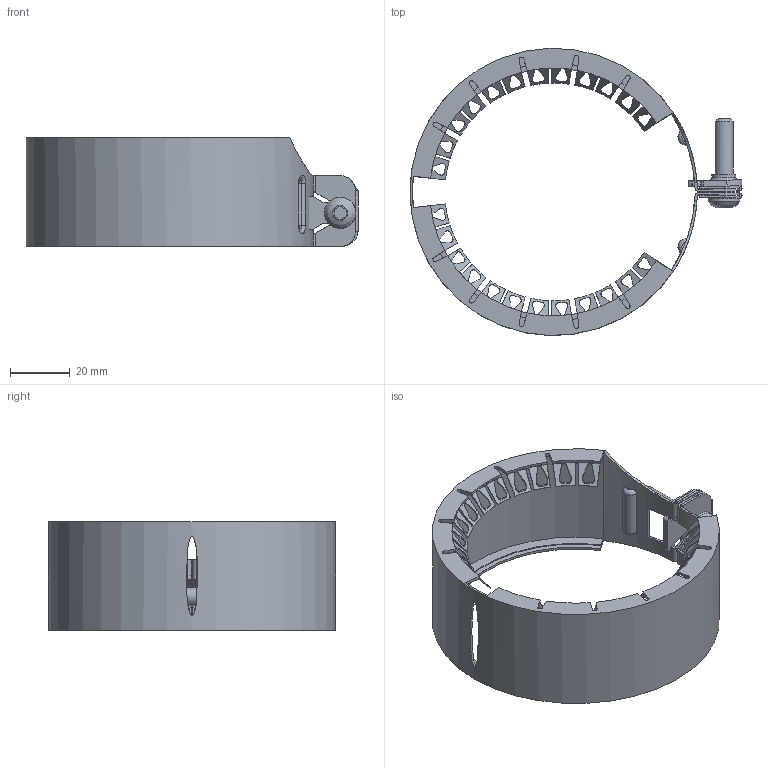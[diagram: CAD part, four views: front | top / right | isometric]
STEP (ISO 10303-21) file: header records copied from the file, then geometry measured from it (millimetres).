
FILE_DESCRIPTION(/* description */ (''),/* implementation_level */ '2;1');
FILE_NAME(/* name */ 'H:\Geberit-Teile\Export\Haltekralle\stp\390308.stp',/* time_stamp */ '2016-03-31T11:29:04+02:00',/* author */ ('seihe2'),/* organization */ (''),/* preprocessor_version */ 'ST-DEVELOPER v15.2',/* originating_system */ 'Autodesk Inventor 2014',/* authorisation */ '');
FILE_SCHEMA (('AUTOMOTIVE_DESIGN { 1 0 10303 214 3 1 1 }'));
Length unit declared in the file: millimetre
Products named in the file (1): 390308
Bounding box: 111.2 x 96.19 x 36.5 mm (x, y, z)
Volume: 15786.3 mm3; surface area: 46724.8 mm2
Topology: 1 solids, 1 shells, 463 faces, 1380 edges, 891 vertices
Faces by surface type: plane 249, cylinder 138, cone 61, bspline 10, torus 5
Full cylindrical faces by diameter (mm): 6 x1, 8 x1, 10.5 x1
Entity records: 17864 total; most frequent: CARTESIAN_POINT 5506, ORIENTED_EDGE 2740, DIRECTION 2291, EDGE_CURVE 1370, VERTEX_POINT 887, AXIS2_PLACEMENT_3D 801, LINE 689, VECTOR 689
